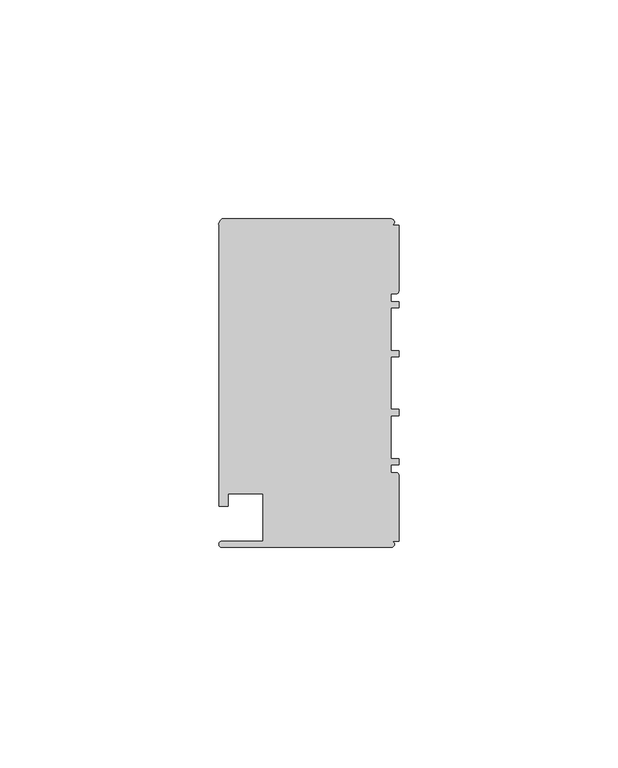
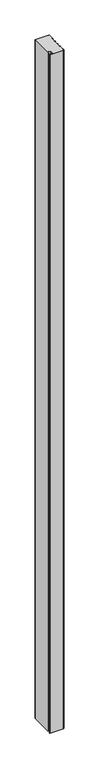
"""IFC4 building model written with IfcOpenShell, lengths in millimetres: member geometry, Прямоугольный импост : 1-AMG-1-Профиль 40Х75 Верх П."""

from ifc_helpers import new_model, si_unit, point, frame, frame_2d, origin, place, context, project, spatial, polyline, circle_curve, trimmed, segment, composite_curve, outline, extrude, source, transform, mapped, element, save


def member_72797093(model_context):
    return source(origin(), model_context, "Body", "SweptSolid", [
        extrude(outline(composite_curve([segment(polyline([(-1.7, -37.5), (-40.4, -37.5)]), True, "CONTINUOUS"), segment(trimmed(circle_curve(frame_2d((-40.4, -36.8)), 0.7), [point((-40.4, -37.5))], [point((-40.4, -36.1))], False, "CARTESIAN"), True, "CONTINUOUS"), segment(polyline([(-40.4, -36.1), (-31.0, -36.1), (-31.0, -25.25), (-39.0, -25.25), (-39.0, -28.1), (-41.1, -28.1), (-41.1, 36.1)]), True, "CONTINUOUS"), segment(trimmed(circle_curve(frame_2d((-39.7541527, 36.3020763)), 1.3609334), [point((-41.1, 36.1))], [point((-40.4, 37.5))], False, "CARTESIAN"), True, "CONTINUOUS"), segment(polyline([(-40.4, 37.5), (-1.7, 37.5)]), True, "CONTINUOUS"), segment(trimmed(circle_curve(frame_2d((-1.7, 36.8)), 0.7), [point((-1.7, 37.5))], [point((-1.7, 36.1))], False, "CARTESIAN"), True, "CONTINUOUS"), segment(polyline([(-1.7, 36.1), (0.0, 36.1), (0.0, 20.95)]), True, "CONTINUOUS"), segment(trimmed(circle_curve(frame_2d((-0.5, 20.95)), 0.5), [point((0.0, 20.95))], [point((-0.5, 20.45))], False, "CARTESIAN"), True, "CONTINUOUS"), segment(polyline([(-0.5, 20.45), (-1.8, 20.45), (-1.8, 18.65), (0.0, 18.65), (0.0, 17.25), (-1.8, 17.25), (-1.8, 7.4), (0.0, 7.4), (0.0, 6.0), (-1.8, 6.0), (-1.8, -6.0), (0.0, -6.0), (0.0, -7.4), (-1.8, -7.4), (-1.8, -17.25), (0.0, -17.25), (0.0, -18.65), (-1.8, -18.65), (-1.8, -20.45), (-0.5, -20.45)]), True, "CONTINUOUS"), segment(trimmed(circle_curve(frame_2d((-0.5, -20.95)), 0.5), [point((-0.5, -20.45))], [point((0.0, -20.95))], False, "CARTESIAN"), True, "CONTINUOUS"), segment(polyline([(0.0, -20.95), (0.0, -36.1), (-1.7, -36.1)]), True, "CONTINUOUS"), segment(trimmed(circle_curve(frame_2d((-1.7, -36.8)), 0.7), [point((-1.7, -36.1))], [point((-1.7, -37.5))], False, "CARTESIAN"), True, "CONTINUOUS")], self_intersect=False)), frame((0.0, 0.0, -2058.9), z_axis=(0.0, 0.0, 1.0), x_axis=(1.0, 0.0, 0.0)), (0.0, 0.0, 1.0), 2058.9),
    ])


if __name__ == "__main__":
    model = new_model("IFC4")
    model_context = context("Model", 3, world=origin())
    ifc_project = project(units=[si_unit("LENGTHUNIT", "METRE", prefix="MILLI")], contexts=[model_context])
    site = spatial("IfcSite", under=ifc_project)
    building = spatial("IfcBuilding", under=site)
    placement = place(None, origin())
    member_shape = member_72797093(model_context)
    element("IfcMember", 1, ObjectType="Прямоугольный импост : 1-AMG-1-Профиль 40Х75 Верх П", at=placement, inside=building, context=model_context, shape_type="MappedRepresentation", body=[
        mapped(member_shape, transform((0.0, 0.0, 0.0), x_axis=(1.0, 0.0, 0.0), y_axis=(0.0, 1.0, 0.0), z_axis=(0.0, 0.0, 1.0))),
    ])
    save(model, "model.ifc")
